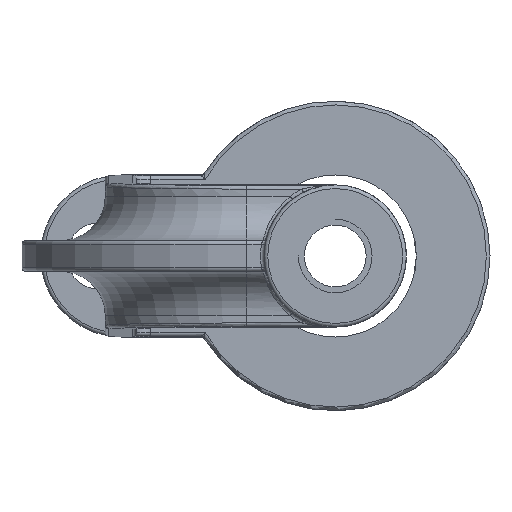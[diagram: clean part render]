
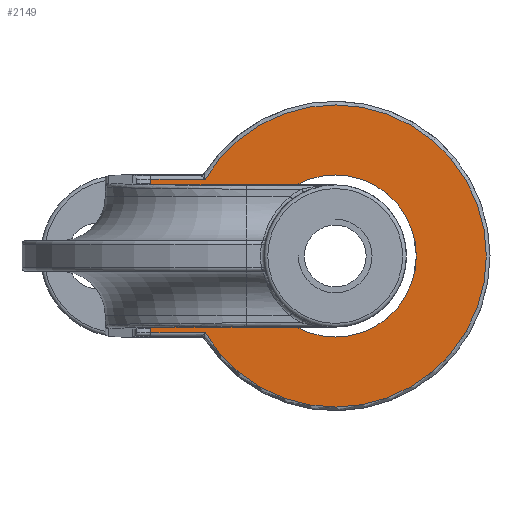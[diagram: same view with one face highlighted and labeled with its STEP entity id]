
A CAD part, front view. The second image highlights one B-rep face of the part: STEP entity #2149.
In plain terms, the highlighted planar face has unit normal (0, -1, 0).
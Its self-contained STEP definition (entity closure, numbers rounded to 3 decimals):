
#24=FACE_BOUND('',#573,.T.);
#39=PLANE('',#2399);
#92=LINE('',#3970,#195);
#117=LINE('',#4722,#220);
#118=LINE('',#4723,#221);
#195=VECTOR('',#2703,10.);
#220=VECTOR('',#2912,10.);
#221=VECTOR('',#2913,10.);
#432=FACE_OUTER_BOUND('',#572,.T.);
#572=EDGE_LOOP('',(#1783,#1784,#1785,#1786));
#573=EDGE_LOOP('',(#1787,#1788));
#743=CIRCLE('',#2320,20.5);
#775=CIRCLE('',#2364,11.);
#776=CIRCLE('',#2365,11.);
#925=VERTEX_POINT('',#3830);
#932=VERTEX_POINT('',#3969);
#934=VERTEX_POINT('',#4006);
#990=VERTEX_POINT('',#4506);
#991=VERTEX_POINT('',#4508);
#1006=VERTEX_POINT('',#4721);
#1168=EDGE_CURVE('',#925,#932,#92,.T.);
#1185=EDGE_CURVE('',#934,#925,#743,.T.);
#1252=EDGE_CURVE('',#991,#990,#775,.T.);
#1253=EDGE_CURVE('',#990,#991,#776,.T.);
#1287=EDGE_CURVE('',#934,#1006,#117,.T.);
#1288=EDGE_CURVE('',#932,#1006,#118,.T.);
#1783=ORIENTED_EDGE('',*,*,#1168,.F.);
#1784=ORIENTED_EDGE('',*,*,#1185,.F.);
#1785=ORIENTED_EDGE('',*,*,#1287,.T.);
#1786=ORIENTED_EDGE('',*,*,#1288,.F.);
#1787=ORIENTED_EDGE('',*,*,#1252,.T.);
#1788=ORIENTED_EDGE('',*,*,#1253,.T.);
#2149=ADVANCED_FACE('',(#432,#24),#39,.T.);
#2320=AXIS2_PLACEMENT_3D('',#4146,#2728,#2729);
#2364=AXIS2_PLACEMENT_3D('',#4509,#2834,#2835);
#2365=AXIS2_PLACEMENT_3D('',#4510,#2836,#2837);
#2399=AXIS2_PLACEMENT_3D('',#4720,#2910,#2911);
#2703=DIRECTION('',(-1.,0.,0.));
#2728=DIRECTION('center_axis',(0.,1.,0.));
#2729=DIRECTION('ref_axis',(1.,0.,0.));
#2834=DIRECTION('center_axis',(0.,1.,0.));
#2835=DIRECTION('ref_axis',(-1.,0.,0.));
#2836=DIRECTION('center_axis',(0.,1.,0.));
#2837=DIRECTION('ref_axis',(-1.,0.,0.));
#2910=DIRECTION('center_axis',(0.,-1.,0.));
#2911=DIRECTION('ref_axis',(0.,0.,1.));
#2912=DIRECTION('',(-1.,0.,0.));
#2913=DIRECTION('',(0.,0.,1.));
#3830=CARTESIAN_POINT('',(-17.652,0.,-10.424));
#3969=CARTESIAN_POINT('',(-25.,0.,-10.424));
#3970=CARTESIAN_POINT('',(0.,0.,-10.424));
#4006=CARTESIAN_POINT('',(-17.652,0.,10.424));
#4146=CARTESIAN_POINT('Origin',(0.,0.,0.));
#4506=CARTESIAN_POINT('',(11.,0.,0.));
#4508=CARTESIAN_POINT('',(-11.,0.,0.));
#4509=CARTESIAN_POINT('Origin',(0.,0.,0.));
#4510=CARTESIAN_POINT('Origin',(0.,0.,0.));
#4720=CARTESIAN_POINT('Origin',(0.,0.,-9.65));
#4721=CARTESIAN_POINT('',(-25.,0.,10.424));
#4722=CARTESIAN_POINT('',(0.,0.,10.424));
#4723=CARTESIAN_POINT('',(-25.,0.,9.65));
